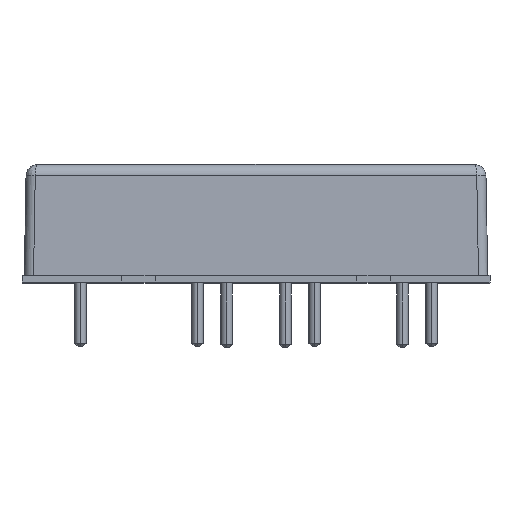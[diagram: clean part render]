
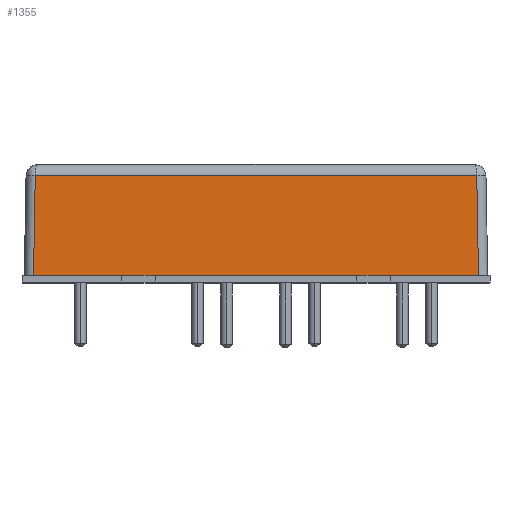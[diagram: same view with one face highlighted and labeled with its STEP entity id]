
A CAD part, top view. The second image highlights one B-rep face of the part: STEP entity #1355.
In plain terms, the highlighted planar face has unit normal (0, 0.018, 1).
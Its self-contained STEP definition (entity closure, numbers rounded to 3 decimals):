
#67 = DIRECTION ( 'NONE',  ( -0.017, -1., 0.017 ) ) ;
#126 = VECTOR ( 'NONE', #2070, 1000. ) ;
#216 = CARTESIAN_POINT ( 'NONE',  ( -8.75, 0.6, 25.2 ) ) ;
#264 = VERTEX_POINT ( 'NONE', #216 ) ;
#280 = LINE ( 'NONE', #1534, #868 ) ;
#342 = CARTESIAN_POINT ( 'NONE',  ( 19.288, 1.287, 25.188 ) ) ;
#354 = CARTESIAN_POINT ( 'NONE',  ( -19.133, 9.217, 25.05 ) ) ;
#386 = EDGE_CURVE ( 'NONE', #2364, #523, #513, .T. ) ;
#484 = VERTEX_POINT ( 'NONE', #1789 ) ;
#513 = LINE ( 'NONE', #1085, #2741 ) ;
#523 = VERTEX_POINT ( 'NONE', #2502 ) ;
#531 = EDGE_CURVE ( 'NONE', #1602, #2312, #1374, .T. ) ;
#641 = LINE ( 'NONE', #342, #126 ) ;
#734 = ORIENTED_EDGE ( 'NONE', *, *, #1683, .T. ) ;
#744 = VECTOR ( 'NONE', #67, 1000. ) ;
#809 = CARTESIAN_POINT ( 'NONE',  ( 8.75, 0.6, 25.2 ) ) ;
#826 = CARTESIAN_POINT ( 'NONE',  ( -20.1, 0.6, 25.2 ) ) ;
#833 = VECTOR ( 'NONE', #1571, 1000. ) ;
#868 = VECTOR ( 'NONE', #887, 1000. ) ;
#887 = DIRECTION ( 'NONE',  ( 1., 0., 0. ) ) ;
#928 = CARTESIAN_POINT ( 'NONE',  ( -19.3, 0.586, 25.2 ) ) ;
#1017 = CARTESIAN_POINT ( 'NONE',  ( -20.1, 0.6, 25.2 ) ) ;
#1085 = CARTESIAN_POINT ( 'NONE',  ( -20.1, 0.6, 25.2 ) ) ;
#1146 = ORIENTED_EDGE ( 'NONE', *, *, #1529, .T. ) ;
#1224 = ORIENTED_EDGE ( 'NONE', *, *, #531, .T. ) ;
#1231 = DIRECTION ( 'NONE',  ( 0., -1., 0.017 ) ) ;
#1234 = VERTEX_POINT ( 'NONE', #1429 ) ;
#1313 = LINE ( 'NONE', #928, #744 ) ;
#1353 = EDGE_LOOP ( 'NONE', ( #1146, #1224, #734, #2262, #1890, #1817, #2756, #1989 ) ) ;
#1355 = ADVANCED_FACE ( 'NONE', ( #2622 ), #1503, .T. ) ;
#1362 = CARTESIAN_POINT ( 'NONE',  ( -20.1, 0.6, 25.2 ) ) ;
#1366 = VECTOR ( 'NONE', #1647, 1000. ) ;
#1374 = LINE ( 'NONE', #354, #1932 ) ;
#1429 = CARTESIAN_POINT ( 'NONE',  ( -11.65, 0.6, 25.2 ) ) ;
#1453 = CARTESIAN_POINT ( 'NONE',  ( -19.15, 9.217, 25.05 ) ) ;
#1475 = LINE ( 'NONE', #826, #2545 ) ;
#1503 = PLANE ( 'NONE',  #2052 ) ;
#1529 = EDGE_CURVE ( 'NONE', #484, #1602, #641, .T. ) ;
#1534 = CARTESIAN_POINT ( 'NONE',  ( -20.1, 0.6, 25.2 ) ) ;
#1571 = DIRECTION ( 'NONE',  ( 1., 0., 0. ) ) ;
#1602 = VERTEX_POINT ( 'NONE', #2764 ) ;
#1647 = DIRECTION ( 'NONE',  ( 1., 0., 0. ) ) ;
#1683 = EDGE_CURVE ( 'NONE', #2312, #2343, #1313, .T. ) ;
#1789 = CARTESIAN_POINT ( 'NONE',  ( 19.3, 0.6, 25.2 ) ) ;
#1817 = ORIENTED_EDGE ( 'NONE', *, *, #2119, .T. ) ;
#1818 = EDGE_CURVE ( 'NONE', #523, #484, #1475, .T. ) ;
#1858 = DIRECTION ( 'NONE',  ( -1., 0., 0. ) ) ;
#1877 = DIRECTION ( 'NONE',  ( 1., 0., 0. ) ) ;
#1890 = ORIENTED_EDGE ( 'NONE', *, *, #2292, .T. ) ;
#1932 = VECTOR ( 'NONE', #1858, 1000. ) ;
#1989 = ORIENTED_EDGE ( 'NONE', *, *, #1818, .T. ) ;
#2017 = EDGE_CURVE ( 'NONE', #2343, #1234, #280, .T. ) ;
#2052 = AXIS2_PLACEMENT_3D ( 'NONE', #1017, #2508, #1231 ) ;
#2070 = DIRECTION ( 'NONE',  ( -0.017, 1., -0.017 ) ) ;
#2094 = CARTESIAN_POINT ( 'NONE',  ( -19.3, 0.6, 25.2 ) ) ;
#2119 = EDGE_CURVE ( 'NONE', #264, #2364, #2536, .T. ) ;
#2137 = LINE ( 'NONE', #2726, #1366 ) ;
#2262 = ORIENTED_EDGE ( 'NONE', *, *, #2017, .T. ) ;
#2292 = EDGE_CURVE ( 'NONE', #1234, #264, #2137, .T. ) ;
#2312 = VERTEX_POINT ( 'NONE', #1453 ) ;
#2343 = VERTEX_POINT ( 'NONE', #2094 ) ;
#2364 = VERTEX_POINT ( 'NONE', #809 ) ;
#2502 = CARTESIAN_POINT ( 'NONE',  ( 11.65, 0.6, 25.2 ) ) ;
#2508 = DIRECTION ( 'NONE',  ( 0., 0.017, 1. ) ) ;
#2536 = LINE ( 'NONE', #1362, #833 ) ;
#2545 = VECTOR ( 'NONE', #1877, 1000. ) ;
#2571 = DIRECTION ( 'NONE',  ( 1., 0., 0. ) ) ;
#2622 = FACE_OUTER_BOUND ( 'NONE', #1353, .T. ) ;
#2726 = CARTESIAN_POINT ( 'NONE',  ( -20.1, 0.6, 25.2 ) ) ;
#2741 = VECTOR ( 'NONE', #2571, 1000. ) ;
#2756 = ORIENTED_EDGE ( 'NONE', *, *, #386, .T. ) ;
#2764 = CARTESIAN_POINT ( 'NONE',  ( 19.15, 9.217, 25.05 ) ) ;
